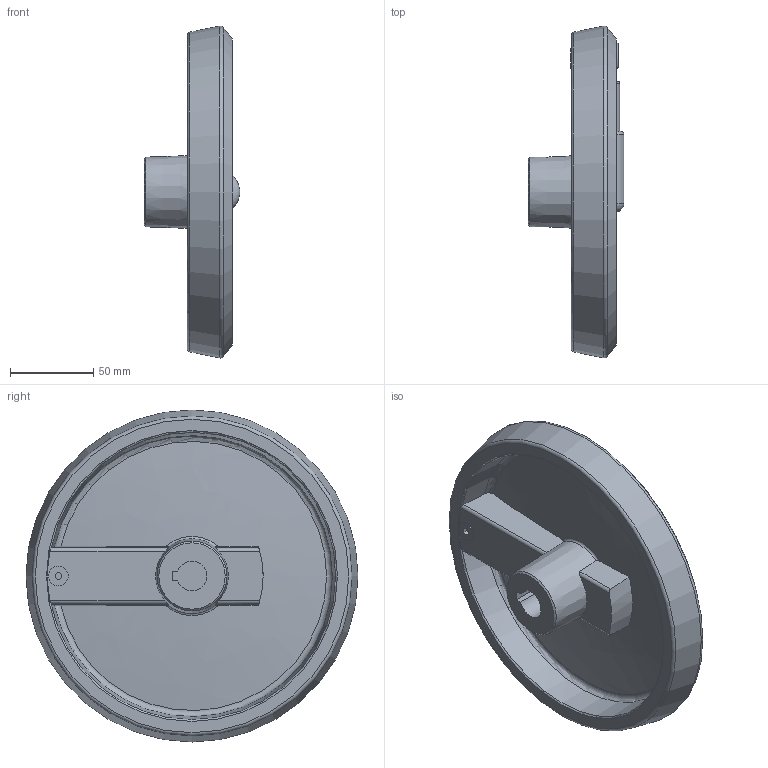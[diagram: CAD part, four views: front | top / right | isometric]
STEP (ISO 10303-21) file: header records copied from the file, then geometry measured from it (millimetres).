
FILE_DESCRIPTION( ( 'STEP AP203' ), '1' );
FILE_NAME( 'C:/Temp/Ganter_Step_05_03_2020/data/1_3/gn_923_7/gn_923_7_k/Handwheel with retractable handle GN 923.7-200-K18-R-SW (unactivated).stp', '2020-03-05T10:40:36', ( 'License CC BY-ND 4.0' ), ( 'CADENAS' ), ' ', 'PARTsolutions', ' ' );
FILE_SCHEMA( ( 'CONFIG_CONTROL_DESIGN' ) );
Length unit declared in the file: millimetre
Products named in the file (3): Handwheel with retractable handle GN 923.7-200-K18-R-SW (unactivated); _Umleggriff-Handrad GN 923.7-200-K18-R-SW-1; _Umleggriff-Handrad GN 923.7-200-K18-R-SW (0)-2
Assembly tree (2 placements, depth 2):
  Handwheel with retractable handle GN 923.7-200-K18-R-SW (unactivated)
    _Umleggriff-Handrad GN 923.7-200-K18-R-SW-1
    _Umleggriff-Handrad GN 923.7-200-K18-R-SW (0)-2
Bounding box: 57.7 x 200 x 200 mm (x, y, z)
Volume: 400921.7 mm3; surface area: 108647.4 mm2
Topology: 2 solids, 2 shells, 112 faces, 275 edges, 175 vertices
Faces by surface type: plane 47, cylinder 29, cone 14, torus 14, bspline 6, sphere 2
Full cylindrical faces by diameter (mm): 4 x2, 5 x1, 8 x1, 12 x1, 15 x1, 20 x2, 23 x1, 25 x1
Entity records: 3677 total; most frequent: CARTESIAN_POINT 1093, DIRECTION 515, ORIENTED_EDGE 484, EDGE_CURVE 242, AXIS2_PLACEMENT_3D 214, VERTEX_POINT 170, EDGE_LOOP 149, FACE_OUTER_BOUND 129
